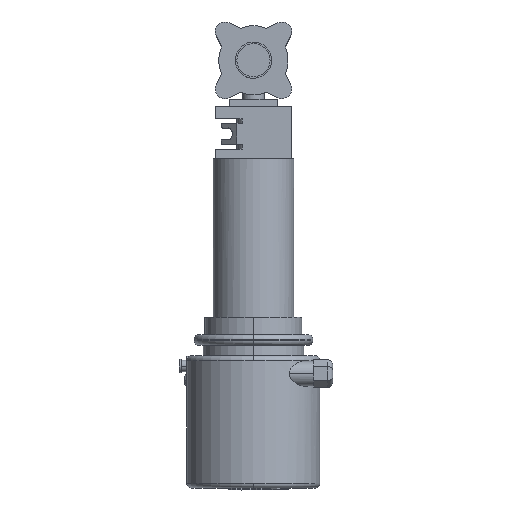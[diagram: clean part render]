
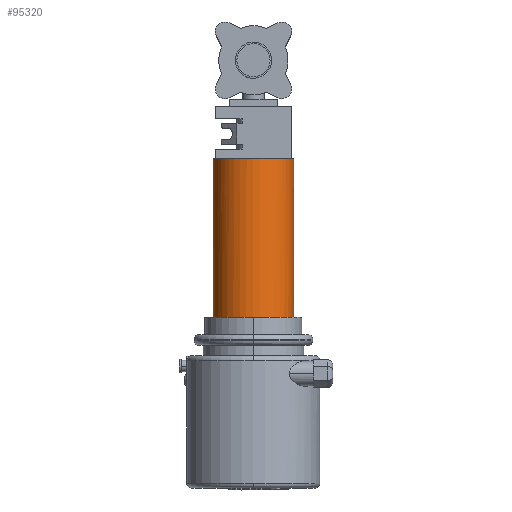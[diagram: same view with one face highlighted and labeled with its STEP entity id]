
A CAD part, top view. The second image highlights one B-rep face of the part: STEP entity #95320.
In plain terms, the highlighted cylindrical face has radius 42.5 mm (diameter 85 mm), a partial arc.
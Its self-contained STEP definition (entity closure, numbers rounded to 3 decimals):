
#100=CARTESIAN_POINT('',(-40.,0.,-14.361));
#110=VERTEX_POINT('',#100);
#160=CARTESIAN_POINT('',(0.,0.,0.));
#170=DIRECTION('',(0.,1.,0.));
#180=DIRECTION('',(-1.,0.,0.));
#190=AXIS2_PLACEMENT_3D('',#160,#170,#180);
#200=CIRCLE('',#190,42.5);
#210=CARTESIAN_POINT('',(-42.5,0.,0.));
#220=VERTEX_POINT('',#210);
#230=EDGE_CURVE('',#110,#220,#200,.T.);
#500=CARTESIAN_POINT('',(0.,167.,0.));
#510=DIRECTION('',(0.,1.,0.));
#520=DIRECTION('',(-1.,0.,0.));
#530=AXIS2_PLACEMENT_3D('',#500,#510,#520);
#540=CIRCLE('',#530,42.5);
#550=CARTESIAN_POINT('',(-42.5,167.,0.));
#560=VERTEX_POINT('',#550);
#570=CARTESIAN_POINT('',(42.5,167.,0.));
#580=VERTEX_POINT('',#570);
#610=EDGE_CURVE('',#580,#560,#540,.T.);
#710=CARTESIAN_POINT('',(-42.5,83.5,0.));
#720=DIRECTION('',(0.,-1.,0.));
#730=VECTOR('',#720,1.);
#740=LINE('',#710,#730);
#750=EDGE_CURVE('',#560,#220,#740,.T.);
#780=CARTESIAN_POINT('',(42.5,83.5,0.));
#790=DIRECTION('',(0.,-1.,0.));
#800=VECTOR('',#790,1.);
#810=LINE('',#780,#800);
#820=CARTESIAN_POINT('',(42.5,0.,0.));
#830=VERTEX_POINT('',#820);
#840=EDGE_CURVE('',#580,#830,#810,.T.);
#900=CARTESIAN_POINT('',(0.,0.,0.));
#910=DIRECTION('',(0.,-1.,0.));
#920=DIRECTION('',(-1.,0.,0.));
#930=AXIS2_PLACEMENT_3D('',#900,#910,#920);
#940=CIRCLE('',#930,42.5);
#7630=CARTESIAN_POINT('',(14.361,0.,-40.));
#7640=VERTEX_POINT('',#7630);
#7650=CARTESIAN_POINT('',(-14.361,0.,-40.));
#7660=VERTEX_POINT('',#7650);
#7670=EDGE_CURVE('',#7640,#7660,#200,.T.);
#7890=CARTESIAN_POINT('',(40.,0.,
-14.361));
#7900=VERTEX_POINT('',#7890);
#7910=EDGE_CURVE('',#830,#7900,#200,.T.);
#25350=EDGE_CURVE('',#110,#7660,#940,.T.);
#25400=EDGE_CURVE('',#7640,#7900,#940,.T.);
#95170=CARTESIAN_POINT('',(0.,83.5,0.));
#95180=DIRECTION('',(0.,-1.,0.));
#95190=DIRECTION('',(-1.,0.,0.));
#95200=AXIS2_PLACEMENT_3D('',#95170,#95180,#95190);
#95210=CYLINDRICAL_SURFACE('',#95200,42.5);
#95220=ORIENTED_EDGE('',*,*,#750,.F.);
#95230=ORIENTED_EDGE('',*,*,#230,.T.);
#95240=ORIENTED_EDGE('',*,*,#25350,.F.);
#95250=ORIENTED_EDGE('',*,*,#7670,.T.);
#95260=ORIENTED_EDGE('',*,*,#25400,.F.);
#95270=ORIENTED_EDGE('',*,*,#7910,.T.);
#95280=ORIENTED_EDGE('',*,*,#840,.T.);
#95290=ORIENTED_EDGE('',*,*,#610,.F.);
#95300=EDGE_LOOP('',(#95290,#95280,#95270,#95260,#95250,#95240,#95230,
#95220));
#95310=FACE_OUTER_BOUND('',#95300,.T.);
#95320=ADVANCED_FACE('',(#95310),#95210,.T.);
